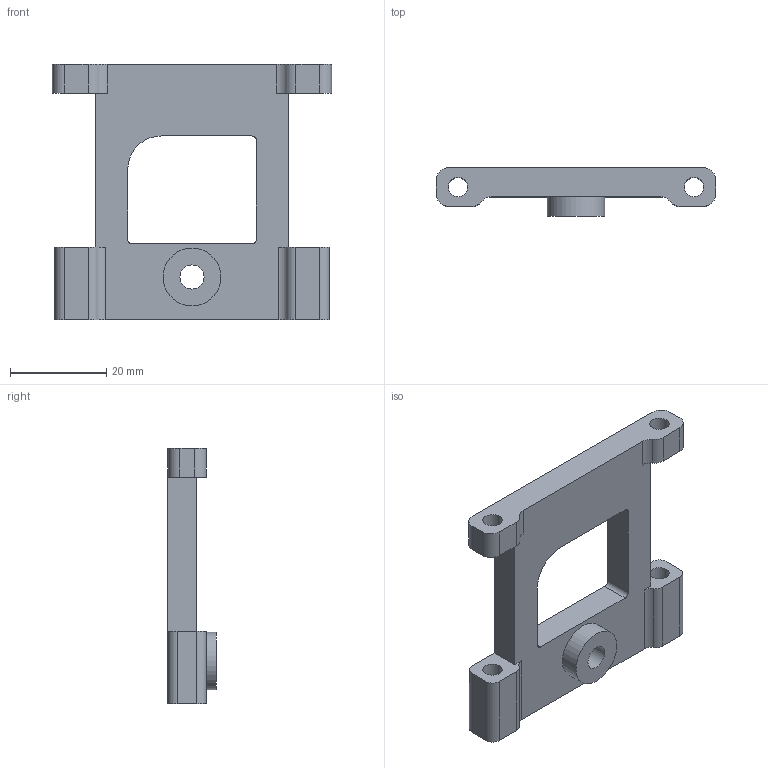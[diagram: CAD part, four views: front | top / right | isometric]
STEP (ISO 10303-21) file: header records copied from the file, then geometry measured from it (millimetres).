
FILE_DESCRIPTION(/* description */ (''),/* implementation_level */ '2;1');
FILE_NAME(/* name */ 'Pen Holder Z Plate.step',/* time_stamp */ '2025-04-22T12:35:21+05:30',/* author */ (''),/* organization */ (''),/* preprocessor_version */ 'ST-DEVELOPER v20.1',/* originating_system */ 'Autodesk Translation Framework v14.4.0.0',/* authorisation */ '');
FILE_SCHEMA (('AUTOMOTIVE_DESIGN { 1 0 10303 214 3 1 1 }'));
Length unit declared in the file: millimetre
Products named in the file (1): Pen Holder Z Plate
Bounding box: 58 x 10 x 53 mm (x, y, z)
Volume: 11773.5 mm3; surface area: 6752 mm2
Topology: 1 solids, 1 shells, 49 faces, 138 edges, 92 vertices
Faces by surface type: cylinder 26, plane 23
Full cylindrical faces by diameter (mm): 4 x4, 5 x1, 12 x1
Entity records: 1668 total; most frequent: DIRECTION 290, CARTESIAN_POINT 280, ORIENTED_EDGE 276, EDGE_CURVE 138, AXIS2_PLACEMENT_3D 102, VERTEX_POINT 92, LINE 86, VECTOR 86
